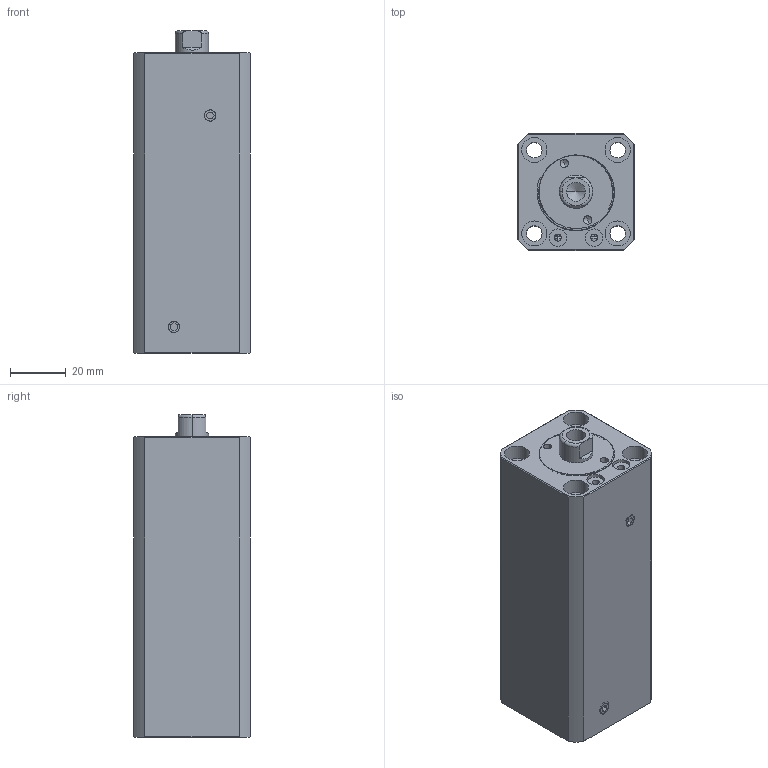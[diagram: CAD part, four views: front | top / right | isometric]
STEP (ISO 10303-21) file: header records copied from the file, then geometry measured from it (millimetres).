
FILE_DESCRIPTION (( 'STEP AP214' ), '1' );
FILE_NAME ('chtb-sdma20x65n_asm.STEP', '2018-05-18T06:16:21', ( '' ), ( '' ), 'SwSTEP 2.0', 'SolidWorks 2016', '' );
FILE_SCHEMA (( 'AUTOMOTIVE_DESIGN' ));
Length unit declared in the file: millimetre
Products named in the file (5): socket set screw flat point_iso_ISO 4026 - M5 x 5-N; QG_3; CHTB-SDMA20X65NHSG; CHTB-SDMA20X65NBT; chtb-sdma20x65n_asm
Assembly tree (5 placements, depth 2):
  chtb-sdma20x65n_asm
    CHTB-SDMA20X65NBT
    CHTB-SDMA20X65NHSG
    QG_3
    socket set screw flat point_iso_ISO 4026 - M5 x 5-N  x2
Bounding box: 42 x 42 x 116 mm (x, y, z)
Volume: 159942.2 mm3; surface area: 46763.5 mm2
Topology: 5 solids, 5 shells, 232 faces, 602 edges, 396 vertices
Faces by surface type: cylinder 111, plane 61, torus 25, bspline 21, cone 14
Entity records: 12042 total; most frequent: CARTESIAN_POINT 6742, ORIENTED_EDGE 1128, DIRECTION 1000, EDGE_CURVE 564, AXIS2_PLACEMENT_3D 415, VERTEX_POINT 376, EDGE_LOOP 256, FACE_OUTER_BOUND 217
